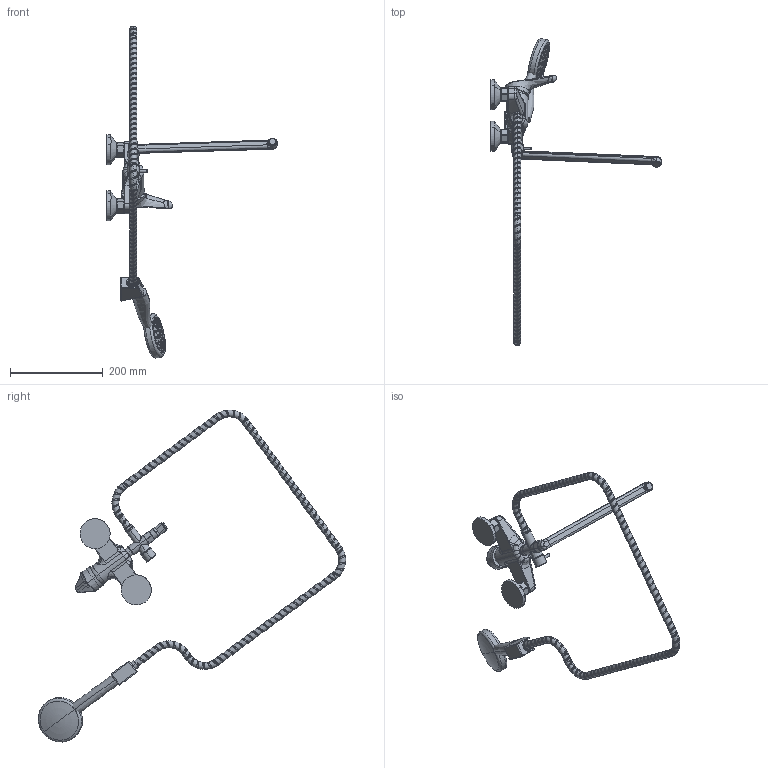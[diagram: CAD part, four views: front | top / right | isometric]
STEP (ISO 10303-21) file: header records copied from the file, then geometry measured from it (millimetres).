
FILE_DESCRIPTION (( 'STEP AP214' ), '1' );
FILE_NAME ('05CR112P20LMKM.STEP', '2020-07-28T13:15:35', ( '' ), ( '' ), 'SwSTEP 2.0', 'SolidWorks 2017', '' );
FILE_SCHEMA (( 'AUTOMOTIVE_DESIGN' ));
Length unit declared in the file: millimetre
Products named in the file (7): äåðæàòåëü; Øëàíã; Ëåéêà; Ðó÷êà 1; 扰鳧111; 05CR112P20LMKM; ëåéêà è øëàíã
Assembly tree (6 placements, depth 3):
  05CR112P20LMKM
    扰鳧111
    Ðó÷êà 1
    ëåéêà è øëàíã
      Ëåéêà
      Øëàíã
    äåðæàòåëü
Bounding box: 367.68 x 663.88 x 717.12 mm (x, y, z)
Volume: 1129682.8 mm3; surface area: 219344.1 mm2
Topology: 7 solids, 7 shells, 1176 faces, 3009 edges, 1871 vertices
Faces by surface type: cylinder 600, bspline 225, plane 147, torus 142, sphere 54, cone 8
Entity records: 77794 total; most frequent: CARTESIAN_POINT 52809, ORIENTED_EDGE 5914, DIRECTION 4435, EDGE_CURVE 2957, VERTEX_POINT 1859, AXIS2_PLACEMENT_3D 1830, EDGE_LOOP 1240, ADVANCED_FACE 1176
